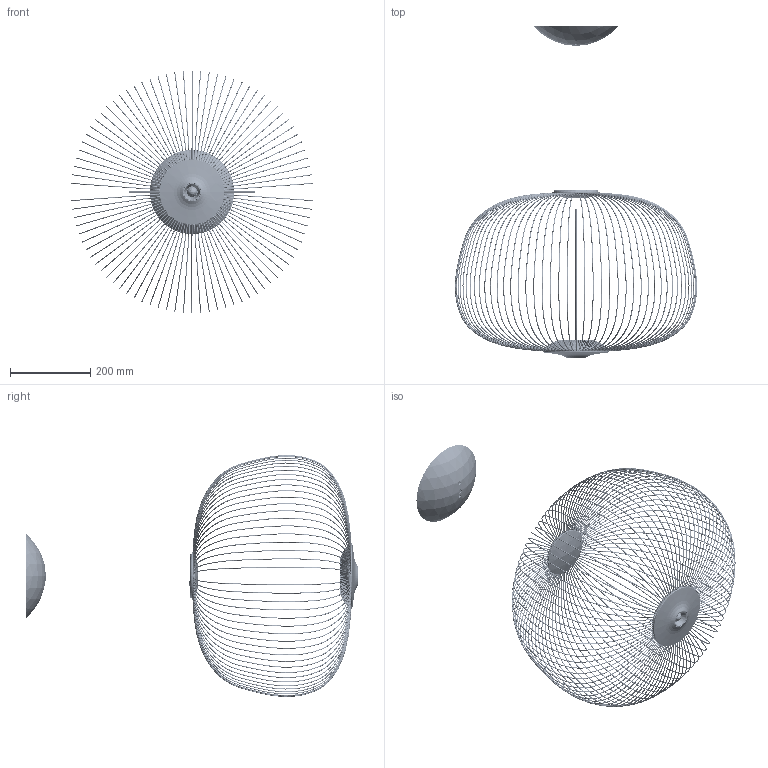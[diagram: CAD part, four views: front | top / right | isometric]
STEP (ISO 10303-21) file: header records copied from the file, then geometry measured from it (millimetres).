
FILE_DESCRIPTION (( 'STEP AP203' ), '1' );
FILE_NAME ('264_3_S_LD_3D.STEP', '2021-03-30T09:54:43', ( '' ), ( '' ), 'SwSTEP 2.0', 'SolidWorks 2021', '' );
FILE_SCHEMA (( 'CONFIG_CONTROL_DESIGN' ));
Length unit declared in the file: millimetre
Products named in the file (1): 264_3_S_LD_3D
Bounding box: 603.13 x 826.31 x 601.92 mm (x, y, z)
Volume: 876681.1 mm3; surface area: 868964.9 mm2
Topology: 125 solids, 125 shells, 6818 faces, 16167 edges, 9614 vertices
Faces by surface type: torus 2357, plane 1633, cylinder 1133, bspline 964, cone 598, sphere 133
Entity records: 245228 total; most frequent: CARTESIAN_POINT 95836, ORIENTED_EDGE 32116, DIRECTION 31571, EDGE_CURVE 16058, AXIS2_PLACEMENT_3D 14118, VERTEX_POINT 9608, CIRCLE 8263, EDGE_LOOP 7032
